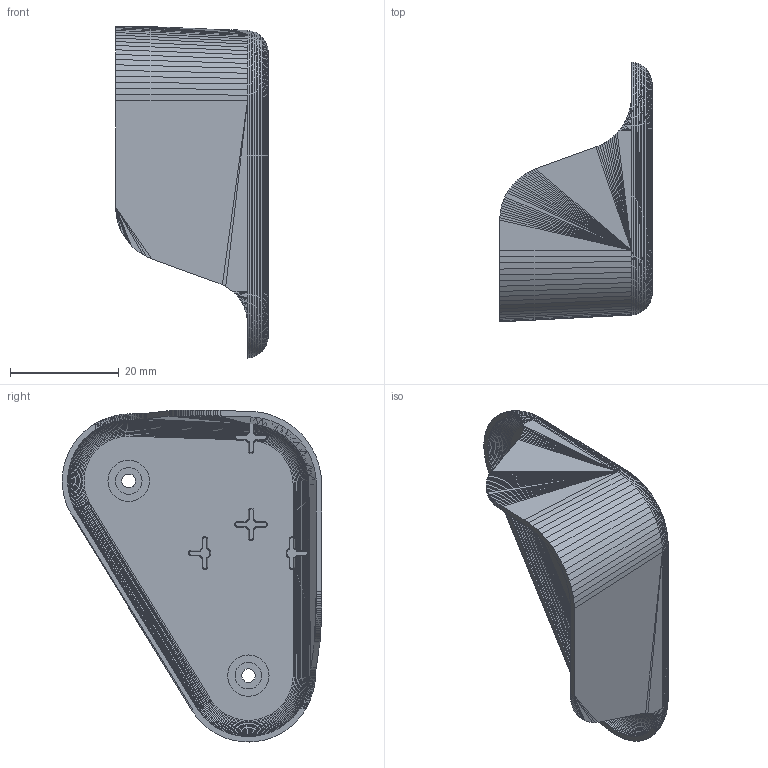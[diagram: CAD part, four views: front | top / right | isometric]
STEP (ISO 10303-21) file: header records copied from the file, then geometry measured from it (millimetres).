
FILE_DESCRIPTION (( 'STEP AP203' ), '1' );
FILE_NAME ('left_upper_leg_酘奻虯-FT.STEP', '2026-10-20T06:44:02', ( '' ), ( '' ), 'SwSTEP 2.0', 'SolidWorks 2021', '' );
FILE_SCHEMA (( 'CONFIG_CONTROL_DESIGN' ));
Products named in the file (1): left_upper_leg_酘奻虯-FT
Bounding box: 28 x 47.66 x 61 mm (x, y, z)
Volume: 4120.3 mm3; surface area: 8360.1 mm2
Topology: 1 solids, 1 shells, 4747 faces, 9734 edges, 4995 vertices
Faces by surface type: plane 4734, cylinder 13
Entity records: 116320 total; most frequent: CARTESIAN_POINT 19750, ORIENTED_EDGE 19468, DIRECTION 19164, EDGE_CURVE 9734, LINE 9618, VECTOR 9618, VERTEX_POINT 4995, AXIS2_PLACEMENT_3D 4773
